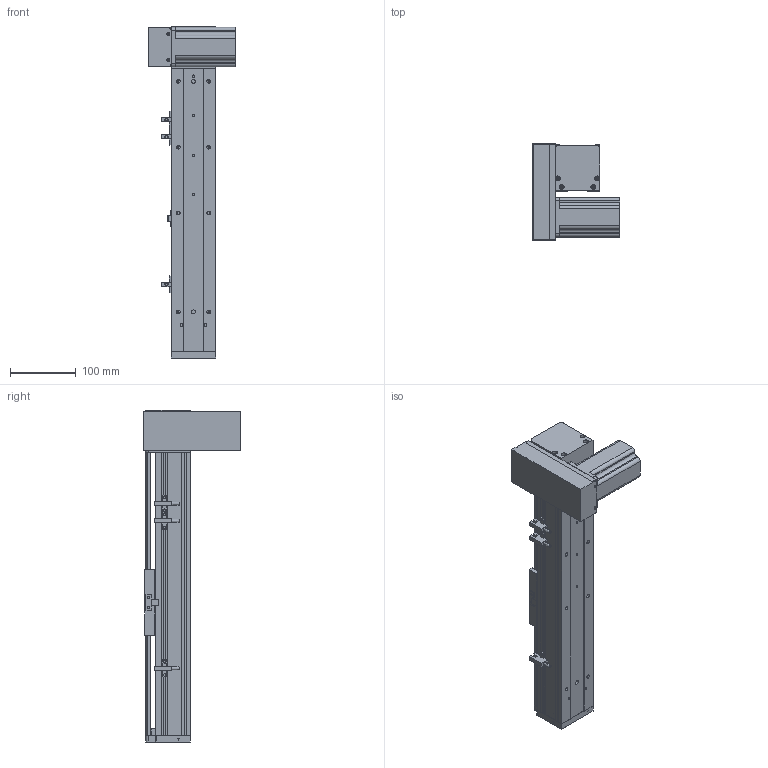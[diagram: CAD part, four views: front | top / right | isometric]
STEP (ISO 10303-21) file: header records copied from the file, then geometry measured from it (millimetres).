
FILE_DESCRIPTION (( 'STEP AP203' ), '1' );
FILE_NAME ('ML68-S250-DR.STEP', '2016-08-05T00:44:16', ( '' ), ( '' ), 'SwSTEP 2.0', 'SolidWorks 2014', '' );
FILE_SCHEMA (( 'CONFIG_CONTROL_DESIGN' ));
Length unit declared in the file: millimetre
Products named in the file (12): QS68左右折电机板罩子; ML68奻裔^ML68-S250-DR; ML68傷啣; ML68滅鳥啣盓傅輸; 60換覜結え; ML68雄赽釱; 換覜ん; QS68酘衵殏萇儂啣; 三协电机MH201N2_預設; 葩璃 ML68菁釱^ML68-S250-DR; ML68-S250-DR; ML68-BL傷啣
Assembly tree (13 placements, depth 2):
  ML68-S250-DR
    葩璃 ML68菁釱^ML68-S250-DR
    ML68奻裔^ML68-S250-DR
    ML68傷啣
    ML68-BL傷啣
    60換覜結え
    換覜ん  x3
    三协电机MH201N2_預設
    ML68雄赽釱
    QS68酘衵殏萇儂啣
    QS68左右折电机板罩子
    ML68滅鳥啣盓傅輸
Bounding box: 133.5 x 148 x 504 mm (x, y, z)
Volume: 1262412.7 mm3; surface area: 426403.2 mm2
Topology: 13 solids, 13 shells, 851 faces, 2326 edges, 1473 vertices
Faces by surface type: cylinder 382, plane 373, cone 96
Entity records: 26666 total; most frequent: CARTESIAN_POINT 4902, DIRECTION 4396, ORIENTED_EDGE 4152, EDGE_CURVE 2076, AXIS2_PLACEMENT_3D 1579, VERTEX_POINT 1361, VECTOR 1238, LINE 1238
